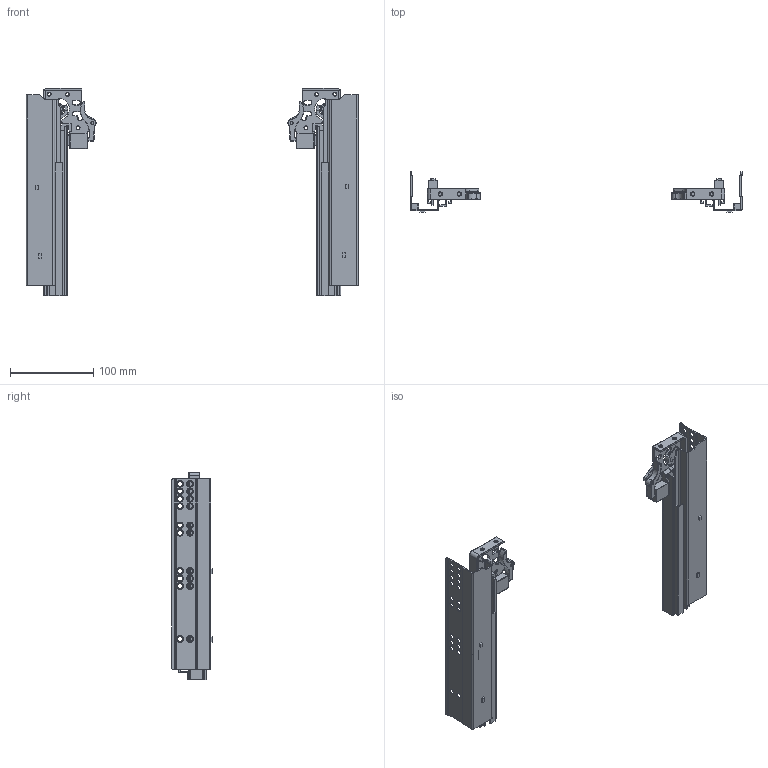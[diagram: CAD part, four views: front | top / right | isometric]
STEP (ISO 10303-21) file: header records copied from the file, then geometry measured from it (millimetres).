
FILE_DESCRIPTION(/* description */ (''),/* implementation_level */ '2;1');
FILE_NAME(/* name */ 'D:\$Workingspace\Designs\Katalog\Cadsoft\GTV Prowadnice\Prowadnice GTV_bryły 3D\PB-0FPO-250.stp',/* time_stamp */ '2016-11-21T11:49:16+01:00',/* author */ ('tomaszw'),/* organization */ (''),/* preprocessor_version */ 'ST-DEVELOPER v16.1',/* originating_system */ 'Autodesk Inventor 2016',/* authorisation */ '');
FILE_SCHEMA (('AUTOMOTIVE_DESIGN { 1 0 10303 214 3 1 1 }'));
Length unit declared in the file: millimetre
Products named in the file (9): PB-0FPO-CL-250; PB-0FPO-CR-250; PB-0FPO-DL-250; PB-0FPO-DR-250; PB-0FPO-DWL-250; PB-0FPO-DWR-250; PB-0FPO-SL; PB-0FPO-SR; PB-0FPO
Assembly tree (8 placements, depth 2):
  PB-0FPO
    PB-0FPO-CL-250
    PB-0FPO-CR-250
    PB-0FPO-DL-250
    PB-0FPO-DR-250
    PB-0FPO-DWL-250
    PB-0FPO-DWR-250
    PB-0FPO-SL
    PB-0FPO-SR
Bounding box: 400 x 48.8 x 250 mm (x, y, z)
Volume: 186882.5 mm3; surface area: 217943.5 mm2
Topology: 16 solids, 16 shells, 1866 faces, 4302 edges, 2474 vertices
Faces by surface type: cylinder 786, plane 440, torus 366, sphere 198, cone 40, bspline 36
Full cylindrical faces by diameter (mm): 3 x2, 4 x6, 4.5 x6, 5 x2, 6 x40, 7.889 x2
Entity records: 55865 total; most frequent: CARTESIAN_POINT 11079, DIRECTION 9896, ORIENTED_EDGE 8248, EDGE_CURVE 4124, AXIS2_PLACEMENT_3D 3993, VERTEX_POINT 2428, CIRCLE 2134, EDGE_LOOP 2132
